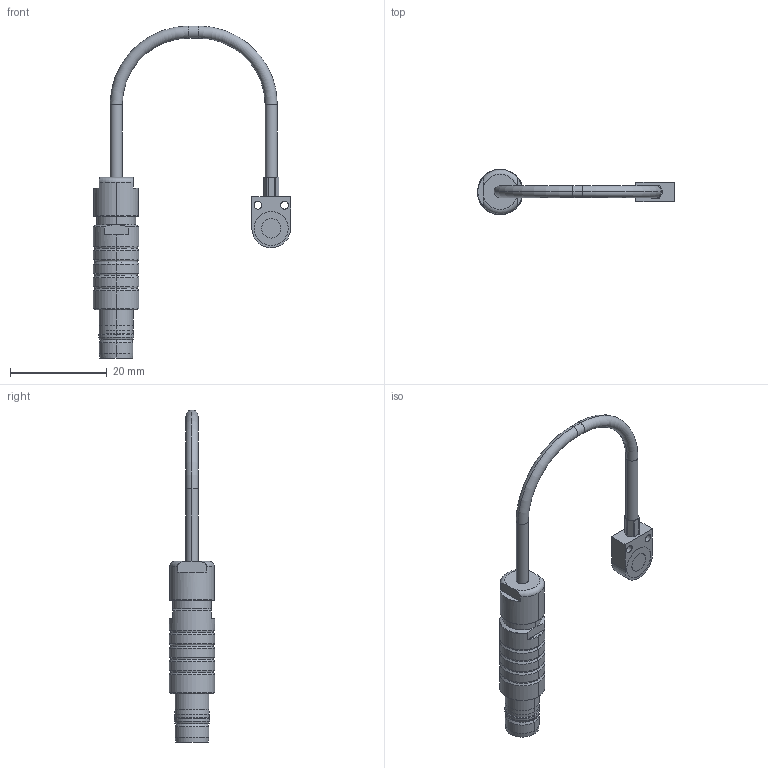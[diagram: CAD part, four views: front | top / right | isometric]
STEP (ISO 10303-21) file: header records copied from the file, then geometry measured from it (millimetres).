
FILE_DESCRIPTION((''),'2;1');
FILE_NAME('6610085-A_ASM','2009-07-30T',('11000065'),(''),'PRO/ENGINEER BY PARAMETRIC TECHNOLOGY CORPORATION, 2008490','PRO/ENGINEER BY PARAMETRIC TECHNOLOGY CORPORATION, 2008490','');
FILE_SCHEMA(('AUTOMOTIVE_DESIGN { 1 2 10303 214 0 1 1 1 }'));
Length unit declared in the file: millimetre
Products named in the file (3): CSH0_5FL; 0323139; 6610085-A_ASM
Assembly tree (2 placements, depth 2):
  6610085-A_ASM
    CSH0_5FL
    0323139
Bounding box: 40.7 x 9.4 x 68.51 mm (x, y, z)
Volume: 2731.6 mm3; surface area: 2320.9 mm2
Topology: 2 solids, 2 shells, 524 faces, 1416 edges, 922 vertices
Faces by surface type: plane 421, cylinder 49, torus 26, cone 26, bspline 2
Entity records: 21037 total; most frequent: CARTESIAN_POINT 3066, ORIENTED_EDGE 2832, DIRECTION 2618, PRESENTATION_STYLE_ASSIGNMENT 1443, STYLED_ITEM 1419, CURVE_STYLE 1416, EDGE_CURVE 1416, VECTOR 1236
